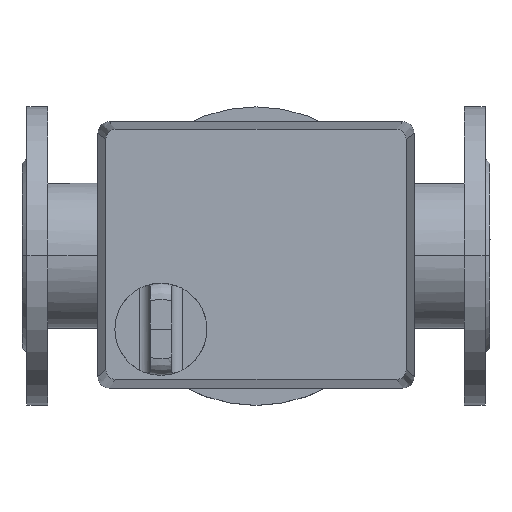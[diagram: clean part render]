
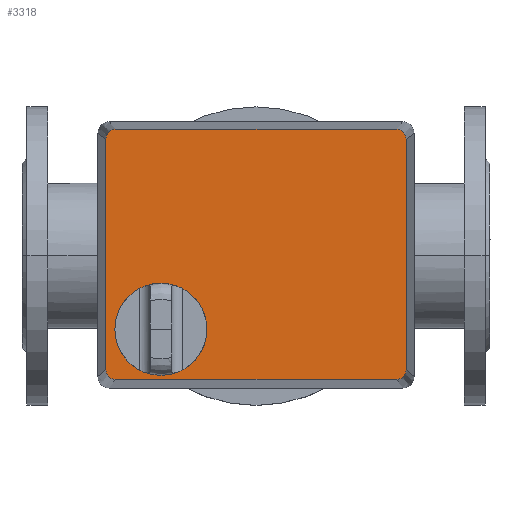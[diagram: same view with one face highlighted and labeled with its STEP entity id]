
A CAD part, top view. The second image highlights one B-rep face of the part: STEP entity #3318.
In plain terms, the highlighted planar face has unit normal (0, 0, 1).
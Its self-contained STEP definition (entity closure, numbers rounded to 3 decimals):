
#297=LINE('',#5696,#499);
#298=LINE('',#5700,#500);
#299=LINE('',#5704,#501);
#300=LINE('',#5708,#502);
#499=VECTOR('',#4552,304.8);
#500=VECTOR('',#4555,304.8);
#501=VECTOR('',#4558,304.8);
#502=VECTOR('',#4561,304.8);
#838=FACE_OUTER_BOUND('',#1064,.T.);
#1064=EDGE_LOOP('',(#2701,#2702,#2703,#2704,#2705,#2706,#2707,#2708));
#1285=CIRCLE('',#3685,6.);
#1286=CIRCLE('',#3686,6.);
#1287=CIRCLE('',#3687,6.);
#1288=CIRCLE('',#3688,6.);
#1563=VERTEX_POINT('',#5694);
#1564=VERTEX_POINT('',#5695);
#1565=VERTEX_POINT('',#5697);
#1566=VERTEX_POINT('',#5699);
#1567=VERTEX_POINT('',#5701);
#1568=VERTEX_POINT('',#5703);
#1569=VERTEX_POINT('',#5705);
#1570=VERTEX_POINT('',#5707);
#1957=EDGE_CURVE('',#1563,#1564,#297,.T.);
#1958=EDGE_CURVE('',#1564,#1565,#1285,.T.);
#1959=EDGE_CURVE('',#1565,#1566,#298,.T.);
#1960=EDGE_CURVE('',#1566,#1567,#1286,.T.);
#1961=EDGE_CURVE('',#1567,#1568,#299,.T.);
#1962=EDGE_CURVE('',#1568,#1569,#1287,.T.);
#1963=EDGE_CURVE('',#1569,#1570,#300,.T.);
#1964=EDGE_CURVE('',#1570,#1563,#1288,.T.);
#2701=ORIENTED_EDGE('',*,*,#1957,.T.);
#2702=ORIENTED_EDGE('',*,*,#1958,.T.);
#2703=ORIENTED_EDGE('',*,*,#1959,.T.);
#2704=ORIENTED_EDGE('',*,*,#1960,.T.);
#2705=ORIENTED_EDGE('',*,*,#1961,.T.);
#2706=ORIENTED_EDGE('',*,*,#1962,.T.);
#2707=ORIENTED_EDGE('',*,*,#1963,.T.);
#2708=ORIENTED_EDGE('',*,*,#1964,.T.);
#3006=PLANE('',#3684);
#3318=ADVANCED_FACE('',(#838),#3006,.T.);
#3684=AXIS2_PLACEMENT_3D('',#5693,#4550,#4551);
#3685=AXIS2_PLACEMENT_3D('',#5698,#4553,#4554);
#3686=AXIS2_PLACEMENT_3D('',#5702,#4556,#4557);
#3687=AXIS2_PLACEMENT_3D('',#5706,#4559,#4560);
#3688=AXIS2_PLACEMENT_3D('',#5709,#4562,#4563);
#4550=DIRECTION('center_axis',(0.,0.,1.));
#4551=DIRECTION('ref_axis',(0.,-1.,0.));
#4552=DIRECTION('',(0.,-1.,0.));
#4553=DIRECTION('center_axis',(0.,0.,1.));
#4554=DIRECTION('ref_axis',(1.,0.,0.));
#4555=DIRECTION('',(1.,0.,0.));
#4556=DIRECTION('center_axis',(0.,0.,1.));
#4557=DIRECTION('ref_axis',(1.,0.,0.));
#4558=DIRECTION('',(0.,1.,0.));
#4559=DIRECTION('center_axis',(0.,0.,1.));
#4560=DIRECTION('ref_axis',(1.,0.,0.));
#4561=DIRECTION('',(-1.,0.,0.));
#4562=DIRECTION('center_axis',(0.,0.,1.));
#4563=DIRECTION('ref_axis',(1.,0.,0.));
#5693=CARTESIAN_POINT('Origin',(0.,0.,
361.));
#5694=CARTESIAN_POINT('',(-77.5,87.,361.));
#5695=CARTESIAN_POINT('',(-77.5,-87.,361.));
#5696=CARTESIAN_POINT('',(-77.5,-87.,361.));
#5697=CARTESIAN_POINT('',(-71.5,-93.,361.));
#5698=CARTESIAN_POINT('Origin',(-71.5,-87.,361.));
#5699=CARTESIAN_POINT('',(71.5,-93.,361.));
#5700=CARTESIAN_POINT('',(71.5,-93.,361.));
#5701=CARTESIAN_POINT('',(77.5,-87.,361.));
#5702=CARTESIAN_POINT('Origin',(71.5,-87.,361.));
#5703=CARTESIAN_POINT('',(77.5,87.,361.));
#5704=CARTESIAN_POINT('',(77.5,87.,361.));
#5705=CARTESIAN_POINT('',(71.5,93.,361.));
#5706=CARTESIAN_POINT('Origin',(71.5,87.,361.));
#5707=CARTESIAN_POINT('',(-71.5,93.,361.));
#5708=CARTESIAN_POINT('',(-71.5,93.,361.));
#5709=CARTESIAN_POINT('Origin',(-71.5,87.,361.));
